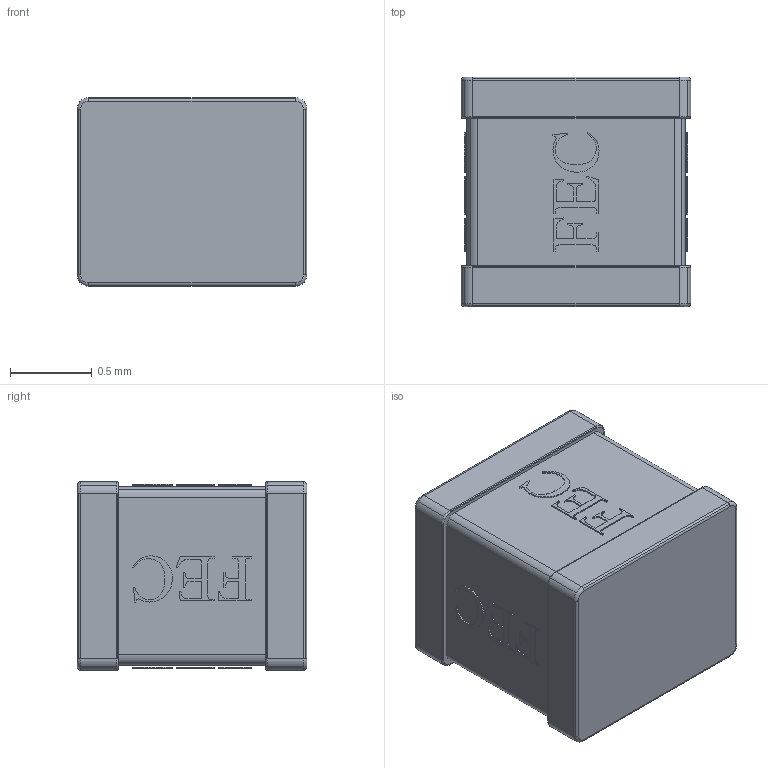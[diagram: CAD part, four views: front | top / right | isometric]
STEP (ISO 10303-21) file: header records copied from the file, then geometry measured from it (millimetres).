
FILE_DESCRIPTION(('STEP AP214'),'1');
FILE_NAME('tmp0.step','2023-08-10T13:09:03',(' '),(' '),'Spatial InterOp 3D',' ',' ');
FILE_SCHEMA(('AUTOMOTIVE_DESIGN { 1 0 10303 214 1 1 1 1 }'));
Length unit declared in the file: millimetre
Products named in the file (1): 1
Bounding box: 1.4 x 1.4 x 1.15 mm (x, y, z)
Volume: 2.1 mm3; surface area: 16.5 mm2
Topology: 15 solids, 15 shells, 1102 faces, 3184 edges, 2112 vertices
Faces by surface type: plane 1030, cylinder 56, torus 16
Entity records: 35715 total; most frequent: CARTESIAN_POINT 6413, ORIENTED_EDGE 6368, DIRECTION 5546, EDGE_CURVE 3184, LINE 3056, VECTOR 3056, VERTEX_POINT 2112, AXIS2_PLACEMENT_3D 1245
